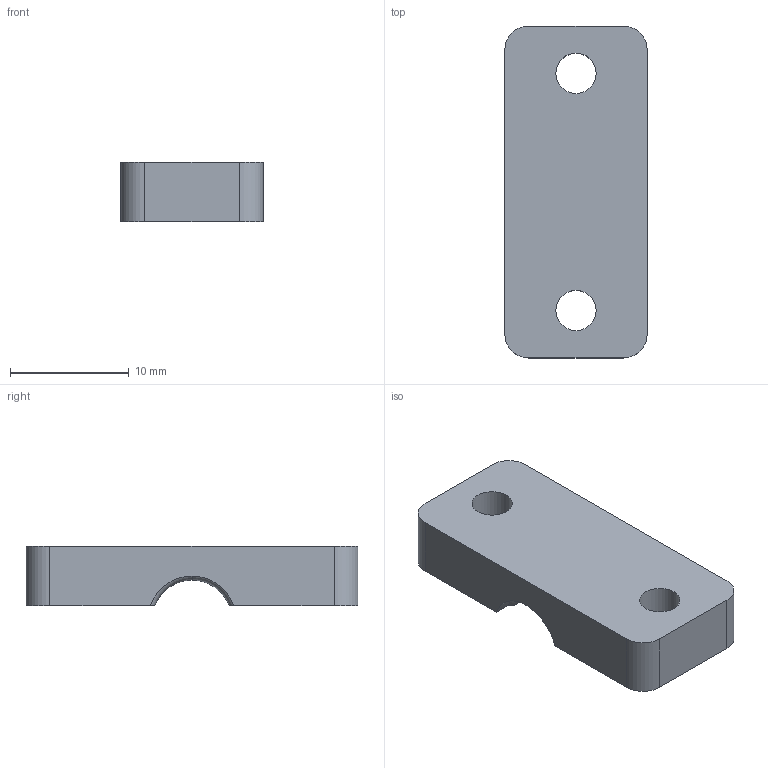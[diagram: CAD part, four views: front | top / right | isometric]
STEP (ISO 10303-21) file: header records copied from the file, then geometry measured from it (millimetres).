
FILE_DESCRIPTION(('FreeCAD Model'),'2;1');
FILE_NAME('Open CASCADE Shape Model','2026-09-29T21:58:29',('Author'),( ''),'Open CASCADE STEP processor 7.8','FreeCAD','Unknown');
FILE_SCHEMA(('AUTOMOTIVE_DESIGN { 1 0 10303 214 1 1 1 1 }'));
Length unit declared in the file: millimetre
Products named in the file (1): strain_relief_upper_5mm
Bounding box: 12 x 28 x 5 mm (x, y, z)
Volume: 1426.9 mm3; surface area: 1124.5 mm2
Topology: 1 solids, 1 shells, 23 faces, 65 edges, 44 vertices
Faces by surface type: cylinder 10, plane 7, torus 6
Full cylindrical faces by diameter (mm): 3.4 x2
Entity records: 928 total; most frequent: CARTESIAN_POINT 289, DIRECTION 138, ORIENTED_EDGE 130, EDGE_CURVE 65, AXIS2_PLACEMENT_3D 55, VERTEX_POINT 44, CIRCLE 31, LINE 28
